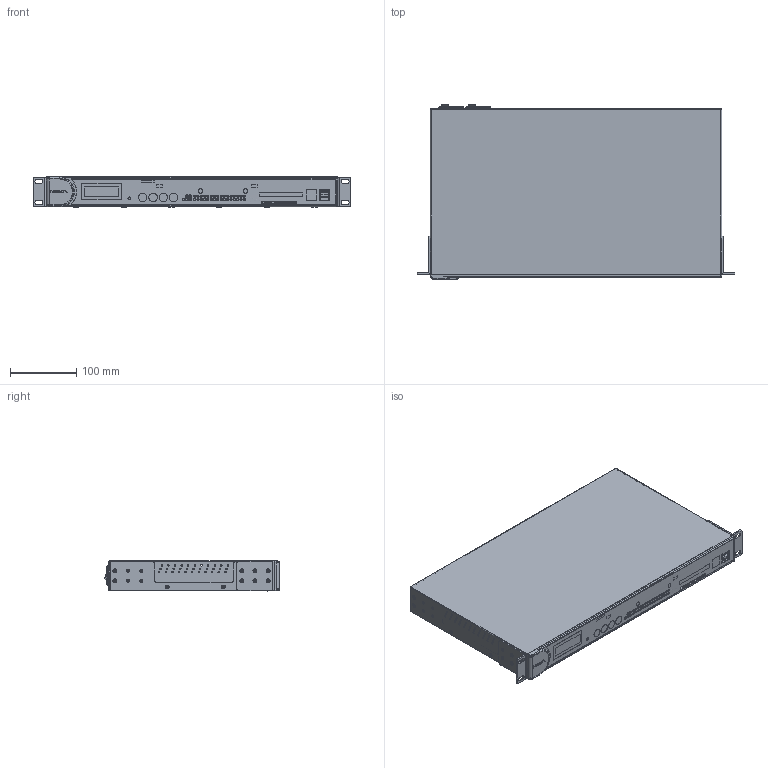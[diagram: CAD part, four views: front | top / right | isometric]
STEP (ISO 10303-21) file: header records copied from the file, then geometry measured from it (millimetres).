
FILE_DESCRIPTION((''),'2;1');
FILE_NAME('PRT0001','2015-08-06T',('Albert_Lin'),(''),'PRO/ENGINEER BY PARAMETRIC TECHNOLOGY CORPORATION, 2013230','PRO/ENGINEER BY PARAMETRIC TECHNOLOGY CORPORATION, 2013230','');
FILE_SCHEMA(('CONFIG_CONTROL_DESIGN'));
Products named in the file (1): PRT0001
Bounding box: 480 x 264.72 x 45.8 mm (x, y, z)
Volume: 429244.4 mm3; surface area: 705337.6 mm2
Topology: 3 solids, 70 shells, 3821 faces, 9709 edges, 6248 vertices
Faces by surface type: plane 2017, cylinder 1430, torus 170, cone 162, sphere 20, bspline 20, revolution 2
Entity records: 132212 total; most frequent: CARTESIAN_POINT 22360, DIRECTION 20353, ORIENTED_EDGE 18972, EDGE_CURVE 9629, AXIS2_PLACEMENT_3D 7234, VERTEX_POINT 6248, VECTOR 5883, LINE 5883
